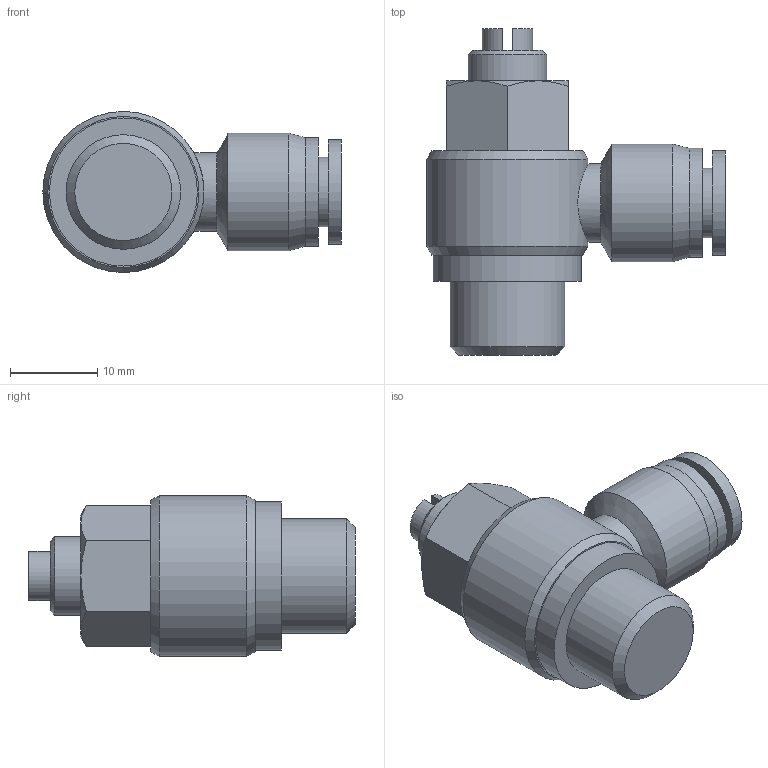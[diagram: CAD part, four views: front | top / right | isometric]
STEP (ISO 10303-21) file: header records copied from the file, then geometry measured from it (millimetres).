
FILE_DESCRIPTION((''),'2;1');
FILE_NAME('S:\UTecnico\ArchivioUT\Speciali Clienti\Speciali KONFIT\DISEGNI 3D\DP\DP 79\DP79C1406.stp','2012-11-28T11:57:55',('UT5'),(''),'Autodesk Inventor 2012','Autodesk Inventor 2012','');
FILE_SCHEMA(('AUTOMOTIVE_DESIGN { 1 0 10303 214 1 1 1 1 }'));
Length unit declared in the file: millimetre
Products named in the file (1): DP79C1406
Bounding box: 34.25 x 37.5 x 18.5 mm (x, y, z)
Volume: 7745.5 mm3; surface area: 3577.8 mm2
Topology: 1 solids, 1 shells, 44 faces, 89 edges, 55 vertices
Faces by surface type: plane 19, cone 13, cylinder 12
Full cylindrical faces by diameter (mm): 6 x1, 8 x1, 9 x2, 12 x1, 12.5 x1, 13.157 x1, 13.5 x1, 17 x1, 18.5 x1
Entity records: 1084 total; most frequent: CARTESIAN_POINT 218, DIRECTION 176, ORIENTED_EDGE 132, AXIS2_PLACEMENT_3D 78, EDGE_LOOP 70, EDGE_CURVE 66, VERTEX_POINT 50, FACE_OUTER_BOUND 44
